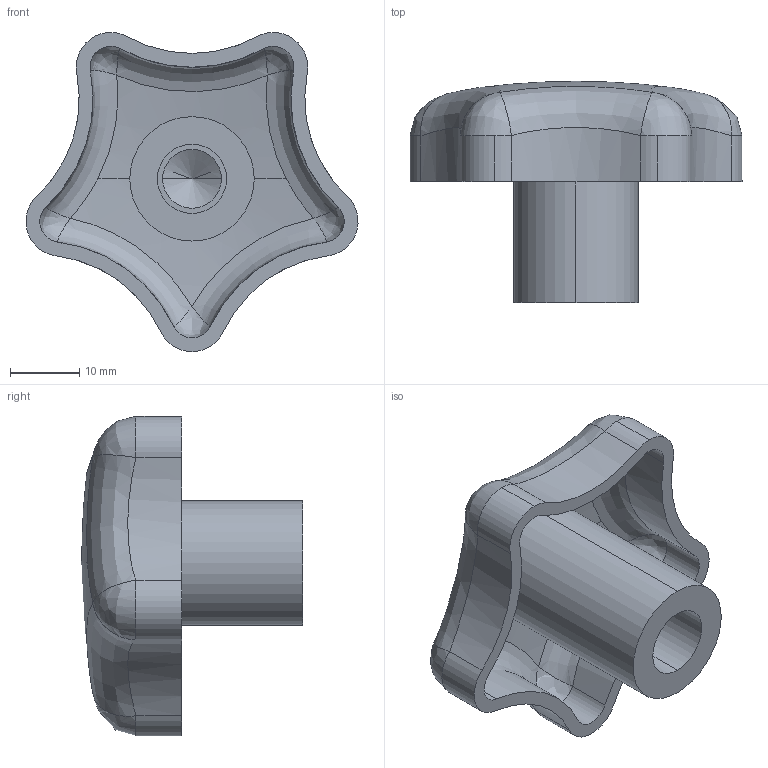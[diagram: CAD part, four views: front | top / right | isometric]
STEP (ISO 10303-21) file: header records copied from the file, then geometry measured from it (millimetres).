
FILE_DESCRIPTION (( 'STEP AP203' ), '1' );
FILE_NAME ('7016.W450.step', '2010-01-31T12:13:10', ( 'Wixroyd' ), ( 'Wixroyd' ), 'SwSTEP 2.0', 'SolidWorks 2009', '' );
FILE_SCHEMA (( 'CONFIG_CONTROL_DESIGN' ));
Length unit declared in the file: millimetre
Products named in the file (1): 7016.W450
Bounding box: 48.03 x 32 x 46.16 mm (x, y, z)
Volume: 11352.8 mm3; surface area: 8113.6 mm2
Topology: 1 solids, 1 shells, 59 faces, 146 edges, 80 vertices
Faces by surface type: cylinder 30, bspline 20, sphere 4, plane 3, cone 2
Entity records: 12108 total; most frequent: CARTESIAN_POINT 10811, ORIENTED_EDGE 268, DIRECTION 228, EDGE_CURVE 134, AXIS2_PLACEMENT_3D 98, VERTEX_POINT 80, EDGE_LOOP 62, FACE_OUTER_BOUND 59
